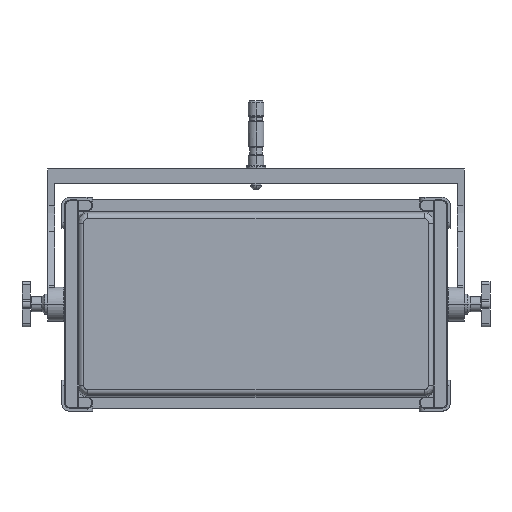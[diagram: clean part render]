
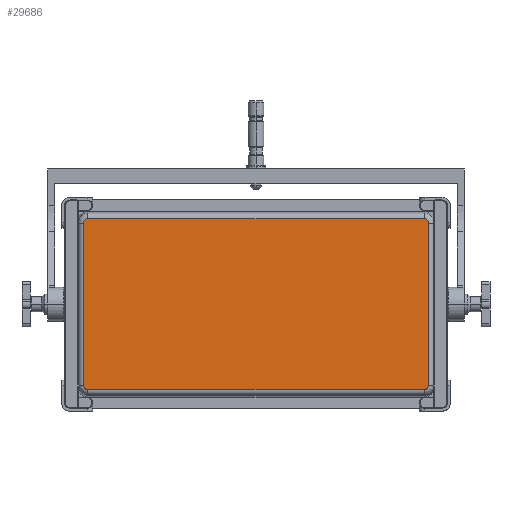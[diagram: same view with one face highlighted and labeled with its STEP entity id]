
A CAD part, front view. The second image highlights one B-rep face of the part: STEP entity #29686.
In plain terms, the highlighted planar face has unit normal (0, -1, 0).
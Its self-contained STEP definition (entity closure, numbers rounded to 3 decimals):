
#10769=DIRECTION('',(1.,0.,0.));
#10770=VECTOR('',#10769,597.);
#10771=CARTESIAN_POINT('',(-298.5,-23.,-151.906));
#10772=LINE('',#10771,#10770);
#10796=DIRECTION('',(0.,0.,-1.));
#10797=VECTOR('',#10796,288.);
#10798=CARTESIAN_POINT('',(-306.406,-23.,144.));
#10799=LINE('',#10798,#10797);
#10819=DIRECTION('',(-1.,0.,0.));
#10820=VECTOR('',#10819,597.);
#10821=CARTESIAN_POINT('',(298.5,-23.,151.906));
#10822=LINE('',#10821,#10820);
#10838=DIRECTION('',(0.,0.,1.));
#10839=VECTOR('',#10838,288.);
#10840=CARTESIAN_POINT('',(306.406,-23.,-144.));
#10841=LINE('',#10840,#10839);
#10846=CARTESIAN_POINT('',(298.5,-23.,-144.));
#10847=DIRECTION('',(0.,1.,0.));
#10848=DIRECTION('',(1.,0.,0.));
#10849=AXIS2_PLACEMENT_3D('',#10846,#10847,#10848);
#10851=CARTESIAN_POINT('',(-298.5,-23.,-144.));
#10852=DIRECTION('',(0.,1.,0.));
#10853=DIRECTION('',(0.,0.,-1.));
#10854=AXIS2_PLACEMENT_3D('',#10851,#10852,#10853);
#10856=CARTESIAN_POINT('',(-298.5,-23.,144.));
#10857=DIRECTION('',(0.,1.,0.));
#10858=DIRECTION('',(-1.,0.,0.));
#10859=AXIS2_PLACEMENT_3D('',#10856,#10857,#10858);
#10861=CARTESIAN_POINT('',(298.5,-23.,144.));
#10862=DIRECTION('',(0.,1.,0.));
#10863=DIRECTION('',(0.,0.,1.));
#10864=AXIS2_PLACEMENT_3D('',#10861,#10862,#10863);
#12939=CARTESIAN_POINT('',(298.5,-23.,-151.906));
#12940=VERTEX_POINT('',#12939);
#12941=CARTESIAN_POINT('',(306.406,-23.,
-144.));
#12942=VERTEX_POINT('',#12941);
#12943=CARTESIAN_POINT('',(-298.5,-23.,-151.906));
#12944=VERTEX_POINT('',#12943);
#12945=CARTESIAN_POINT('',(-306.406,-23.,-144.));
#12946=VERTEX_POINT('',#12945);
#12947=CARTESIAN_POINT('',(-306.406,-23.,144.));
#12948=VERTEX_POINT('',#12947);
#12949=CARTESIAN_POINT('',(-298.5,-23.,151.906));
#12950=VERTEX_POINT('',#12949);
#12951=CARTESIAN_POINT('',(298.5,-23.,151.906));
#12952=VERTEX_POINT('',#12951);
#12953=CARTESIAN_POINT('',(306.406,-23.,144.));
#12954=VERTEX_POINT('',#12953);
#29671=CARTESIAN_POINT('',(298.5,-23.,-144.));
#29672=DIRECTION('',(0.,-1.,0.));
#29673=DIRECTION('',(0.,0.,1.));
#29674=AXIS2_PLACEMENT_3D('',#29671,#29672,#29673);
#29675=PLANE('',#29674);
#29676=ORIENTED_EDGE('',*,*,#29664,.F.);
#29677=ORIENTED_EDGE('',*,*,#29530,.T.);
#29678=ORIENTED_EDGE('',*,*,#29545,.F.);
#29679=ORIENTED_EDGE('',*,*,#29571,.T.);
#29680=ORIENTED_EDGE('',*,*,#29587,.F.);
#29681=ORIENTED_EDGE('',*,*,#29613,.T.);
#29682=ORIENTED_EDGE('',*,*,#29627,.F.);
#29683=ORIENTED_EDGE('',*,*,#29651,.T.);
#29684=EDGE_LOOP('',(#29676,#29677,#29678,#29679,#29680,#29681,#29682,#29683));
#29685=FACE_OUTER_BOUND('',#29684,.F.);
#29686=ADVANCED_FACE('',(#29685),#29675,.T.);
#10850=CIRCLE('',#10849,7.906);
#10855=CIRCLE('',#10854,7.906);
#10860=CIRCLE('',#10859,7.906);
#10865=CIRCLE('',#10864,7.906);
#29530=EDGE_CURVE('',#12942,#12940,#10850,.T.);
#29545=EDGE_CURVE('',#12944,#12940,#10772,.T.);
#29571=EDGE_CURVE('',#12944,#12946,#10855,.T.);
#29587=EDGE_CURVE('',#12948,#12946,#10799,.T.);
#29613=EDGE_CURVE('',#12948,#12950,#10860,.T.);
#29627=EDGE_CURVE('',#12952,#12950,#10822,.T.);
#29651=EDGE_CURVE('',#12952,#12954,#10865,.T.);
#29664=EDGE_CURVE('',#12942,#12954,#10841,.T.);
